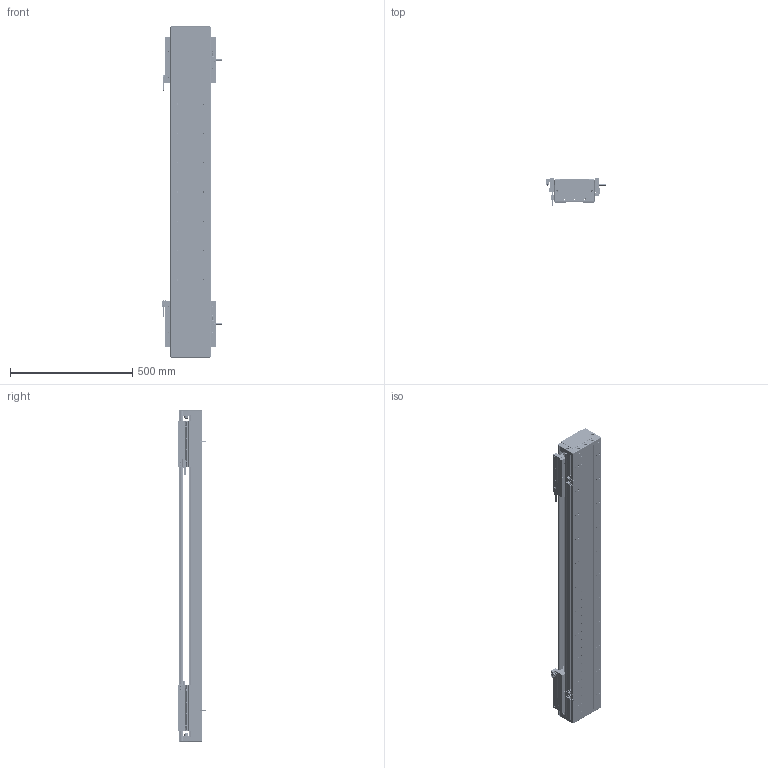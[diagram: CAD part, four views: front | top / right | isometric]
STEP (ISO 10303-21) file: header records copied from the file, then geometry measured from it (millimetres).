
FILE_DESCRIPTION (( 'STEP AP203' ), '1' );
FILE_NAME ('DA-C165-2-C2-T860-C010-0.2 直线电机.STEP', '2023-05-11T08:18:41', ( '微软用户' ), ( '微软中国' ), 'SwSTEP 2.0', 'SolidWorks 2019', '' );
FILE_SCHEMA (( 'CONFIG_CONTROL_DESIGN' ));
Length unit declared in the file: millimetre
Products named in the file (19): 葩璃 CKM01-W075-TRL^DA-C165-C2-T-C010-0.2-N 眻盄萇儂; 复件 六角薄螺母 M3^DA-C165-C2-T-C010-0.2-N 直线电机_GB_FASTENER_NUT_STNAB M3-C; 复件 DA95-HXJ-00 缓冲橡胶^DA-C165-C2-T-C010-0.2-N 直线电机; 复件 XD-U-02L 磁栅尺^DA-C165-C2-T-C010-0.2-N 直线电机_T; 复件 DMA-010-0.2 读数头^DA-C165-C2-T-C010-0.2-N 直线电机; 复件 DA126-GYP-ZJ-00 中间光电感应片^DA-C165-C2-T-C010-0.2-N 直线电机; IU-CU165-L-00 菁釱_L1320; 葩璃 PM-Y45^DA-C165-C2-T-C010-0.2-N 眻盄萇儂; 复件 CKM02-W075-C1C2-TP-3.0 一体电机-C2^DA-C165-C2-T-C010-0.2-N 直线电机; 复件 DA165-T-002-00 盖板^DA-C165-C2-T-C010-0.2-N 直线电机_0840-002-00; IU-CU165-L 菁釱絳寢; 葩璃 DA95-GT-T-00^IU-CU165-L 菁釱絳寢_T; 复件 DKW-HXJ-JY-00 缓冲橡胶^DA-C165-C2-T-C010-0.2-N 直线电机; 珨极趙賑雄怢啣wf-C2; 复件 DA165-GYP-00 光电感应片^DA-C165-C2-T-C010-0.2-N 直线电机; 复件 DA165-DG-H-N-00 端盖^DA-C165-C2-T-C010-0.2-N 直线电机; 葩璃 PM-T45^DA-C165-C2-T-C010-0.2-N 眻盄萇儂; DA-C165-2-C2-T860-C010-0.2 眻盄萇儂; 复件 66338-1000-006-00 光电感应块^DA-C165-C2-T-C010-0.2-N 直线电机
Assembly tree (38 placements, depth 3):
  DA-C165-2-C2-T860-C010-0.2 眻盄萇儂
    IU-CU165-L 菁釱絳寢
      IU-CU165-L-00 菁釱_L1320
      葩璃 DA95-GT-T-00^IU-CU165-L 菁釱絳寢_T  x4
    复件 DA165-DG-H-N-00 端盖^DA-C165-C2-T-C010-0.2-N 直线电机  x2
    复件 DA95-HXJ-00 缓冲橡胶^DA-C165-C2-T-C010-0.2-N 直线电机  x4
    复件 DA165-T-002-00 盖板^DA-C165-C2-T-C010-0.2-N 直线电机_0840-002-00
    复件 XD-U-02L 磁栅尺^DA-C165-C2-T-C010-0.2-N 直线电机_T
    葩璃 PM-T45^DA-C165-C2-T-C010-0.2-N 眻盄萇儂  x4
    葩璃 CKM01-W075-TRL^DA-C165-C2-T-C010-0.2-N 眻盄萇儂
    复件 CKM02-W075-C1C2-TP-3.0 一体电机-C2^DA-C165-C2-T-C010-0.2-N 直线电机  x2
    复件 DMA-010-0.2 读数头^DA-C165-C2-T-C010-0.2-N 直线电机  x2
    复件 DA165-GYP-00 光电感应片^DA-C165-C2-T-C010-0.2-N 直线电机  x2
    复件 66338-1000-006-00 光电感应块^DA-C165-C2-T-C010-0.2-N 直线电机
    葩璃 PM-Y45^DA-C165-C2-T-C010-0.2-N 眻盄萇儂
    复件 DA126-GYP-ZJ-00 中间光电感应片^DA-C165-C2-T-C010-0.2-N 直线电机
    复件 DKW-HXJ-JY-00 缓冲橡胶^DA-C165-C2-T-C010-0.2-N 直线电机  x2
    复件 六角薄螺母 M3^DA-C165-C2-T-C010-0.2-N 直线电机_GB_FASTENER_NUT_STNAB M3-C  x6
    珨极趙賑雄怢啣wf-C2  x2
Bounding box: 247.2 x 111.45 x 1360 mm (x, y, z)
Volume: 11009902.2 mm3; surface area: 2921399.9 mm2
Topology: 115 solids, 115 shells, 4988 faces, 13431 edges, 8378 vertices
Faces by surface type: cylinder 2438, plane 1774, cone 680, torus 88, sphere 8
Entity records: 104500 total; most frequent: CARTESIAN_POINT 24792, DIRECTION 16251, ORIENTED_EDGE 16108, EDGE_CURVE 8054, AXIS2_PLACEMENT_3D 6074, VERTEX_POINT 5215, LINE 4103, VECTOR 4103
